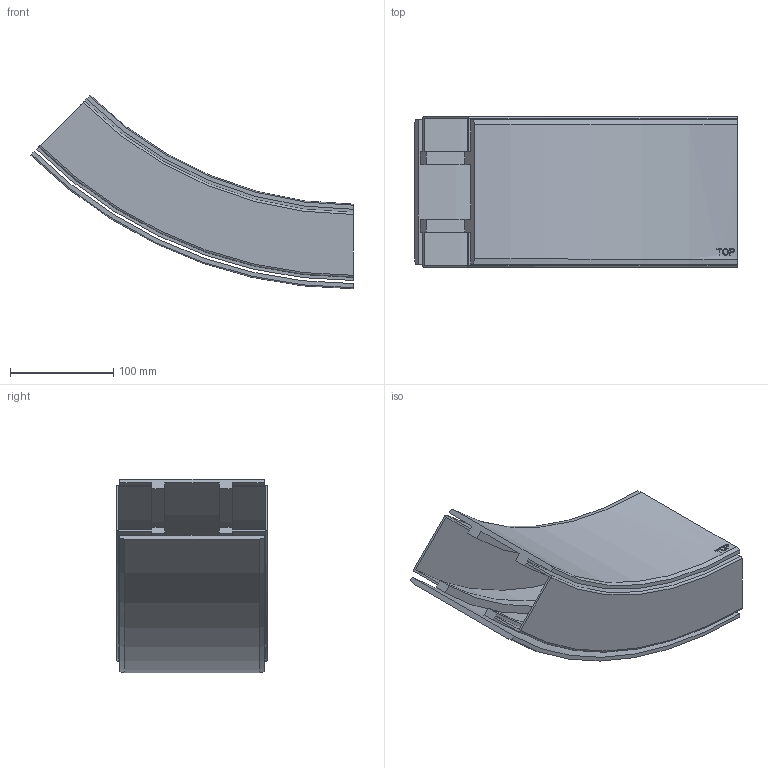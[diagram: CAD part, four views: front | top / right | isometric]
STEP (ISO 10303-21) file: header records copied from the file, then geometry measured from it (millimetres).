
FILE_DESCRIPTION(/* description */ ('VERTIKALKURVA S540 R400'),/* implementation_level */ '2;1');
FILE_NAME(/* name */ '540-5645+140-2000-UPP-01.stp',/* time_stamp */ '2022-09-21T10:39:12+02:00',/* author */ ('Mathias.Dore'),/* organization */ ('CARRYLINE'),/* preprocessor_version */ 'ST-DEVELOPER v19.2',/* originating_system */ 'Autodesk Inventor 2023',/* authorisation */ '');
FILE_SCHEMA (('AUTOMOTIVE_DESIGN { 1 0 10303 214 3 1 1 }'));
Length unit declared in the file: millimetre
Products named in the file (1): 540-5645+140-2000-UPP-01
Bounding box: 312.89 x 146 x 187.59 mm (x, y, z)
Volume: 722493.6 mm3; surface area: 379526.8 mm2
Topology: 2 solids, 2 shells, 87 faces, 234 edges, 156 vertices
Faces by surface type: plane 40, cylinder 25, bspline 14, cone 4, torus 4
Entity records: 7357 total; most frequent: CARTESIAN_POINT 5158, ORIENTED_EDGE 468, DIRECTION 408, EDGE_CURVE 234, VERTEX_POINT 156, AXIS2_PLACEMENT_3D 141, LINE 126, VECTOR 126
